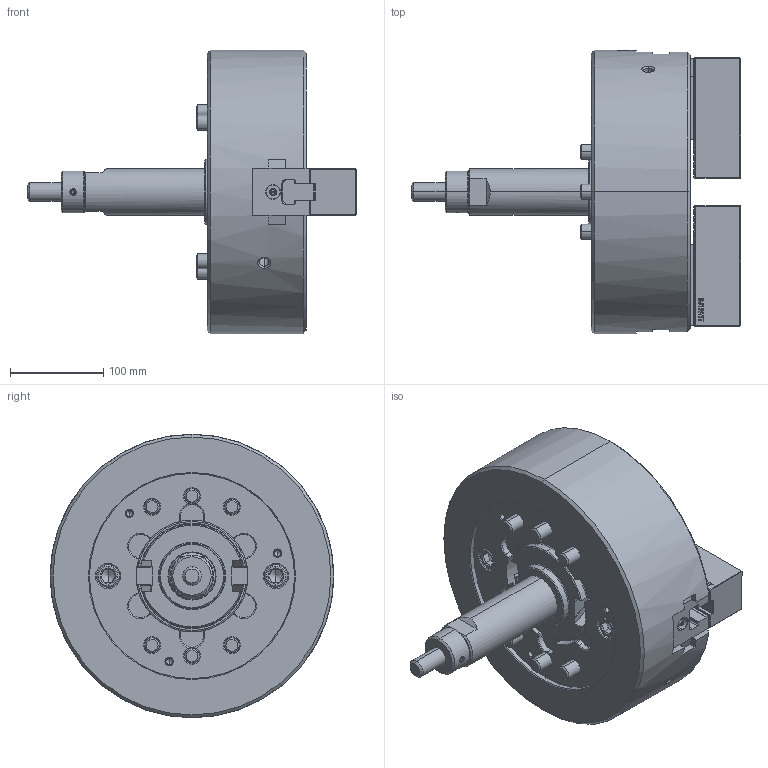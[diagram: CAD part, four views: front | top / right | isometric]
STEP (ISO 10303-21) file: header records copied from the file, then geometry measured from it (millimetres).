
FILE_DESCRIPTION (( 'STEP AP214' ), '1' );
FILE_NAME ('DT1_NLT12_OUTSIDE_VIEW_OC.STEP', '2026-03-23T07:23:06', ( '' ), ( '' ), 'SwSTEP 2.0', 'SolidWorks 2022', '' );
FILE_SCHEMA (( 'AUTOMOTIVE_DESIGN' ));
Length unit declared in the file: millimetre
Products named in the file (11): DT1_NLT12_COVER^DT1_NLT12; DT1_NLT12_OUTSIDE_VIEW_OC; Copy of 61P335750^DT1_NLT12; DT1_NLT12_DRAWSCREW^DT1_NLT12; DT1_NLT12_M16x100^DT1_NLT12; DT1_NLT12_DN^DT1_NLT12; DT1_NLT12_SOFTJAW^DT1_NLT12; DT1_NLT12_M14x45^DT1_NLT12; DT1_NLT12_TNUT^DT1_NLT12; DT1_NLT12_M5x12^DT1_NLT12; DT1_NLT12_BASE^DT1_NLT12
Assembly tree (23 placements, depth 2):
  DT1_NLT12_OUTSIDE_VIEW_OC
    DT1_NLT12_SOFTJAW^DT1_NLT12  x2
    DT1_NLT12_TNUT^DT1_NLT12  x2
    DT1_NLT12_COVER^DT1_NLT12
    DT1_NLT12_DRAWSCREW^DT1_NLT12
    Copy of 61P335750^DT1_NLT12
    DT1_NLT12_DN^DT1_NLT12
    DT1_NLT12_BASE^DT1_NLT12
    DT1_NLT12_M16x100^DT1_NLT12  x6
    DT1_NLT12_M14x45^DT1_NLT12  x4
    DT1_NLT12_M5x12^DT1_NLT12  x4
Bounding box: 353 x 304 x 304 mm (x, y, z)
Volume: 8001383.9 mm3; surface area: 620048 mm2
Topology: 23 solids, 23 shells, 4529 faces, 12866 edges, 8415 vertices
Faces by surface type: plane 2704, cylinder 1232, cone 385, bspline 157, torus 47, sphere 4
Entity records: 111695 total; most frequent: CARTESIAN_POINT 30880, ORIENTED_EDGE 18424, DIRECTION 14496, EDGE_CURVE 9212, VECTOR 6514, LINE 6514, VERTEX_POINT 6042, AXIS2_PLACEMENT_3D 3991
